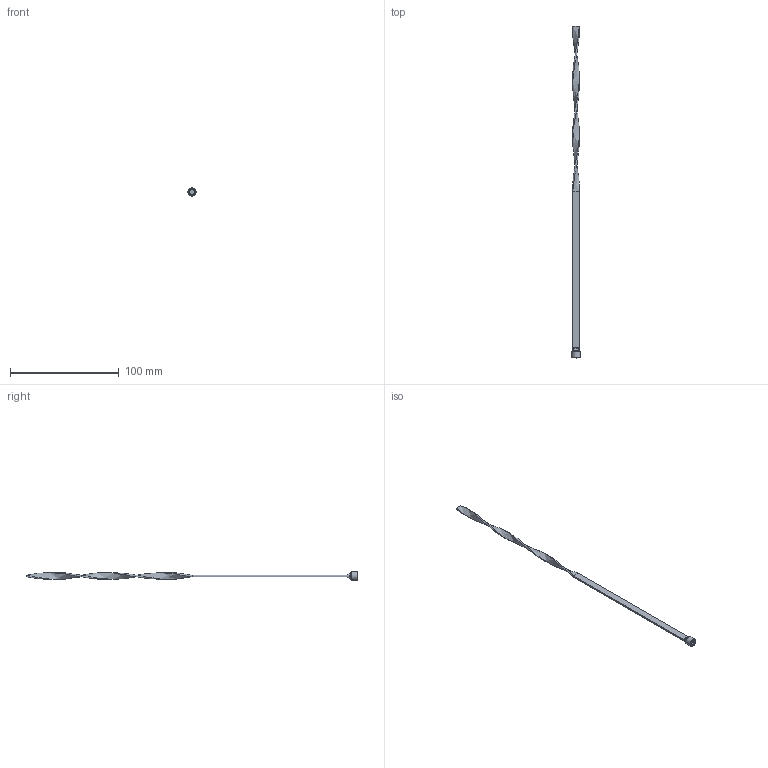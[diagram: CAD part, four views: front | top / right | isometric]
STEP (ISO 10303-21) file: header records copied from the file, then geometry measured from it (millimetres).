
FILE_DESCRIPTION(/* description */ (''),/* implementation_level */ '2;1');
FILE_NAME(/* name */ 'C:/Users/drich/Desktop/TB16X12 v1.step',/* time_stamp */ '2020-01-14T09:03:33-06:00',/* author */ (''),/* organization */ (''),/* preprocessor_version */ 'ST-DEVELOPER v18',/* originating_system */ 'Autodesk Translation Framework v8.12.0.6',/* authorisation */ '');
FILE_SCHEMA (('AUTOMOTIVE_DESIGN { 1 0 10303 214 3 1 1 }'));
Length unit declared in the file: inch
Products named in the file (1): TB16X12
Bounding box: 7.62 x 304.8 x 7.62 mm (x, y, z)
Volume: 2916.8 mm3; surface area: 4815.7 mm2
Topology: 2 solids, 2 shells, 48 faces, 123 edges, 81 vertices
Faces by surface type: plane 22, cylinder 9, cone 8, torus 5, bspline 4
Full cylindrical faces by diameter (mm): 7.616 x1
Entity records: 1920 total; most frequent: CARTESIAN_POINT 741, ORIENTED_EDGE 246, DIRECTION 225, EDGE_CURVE 123, AXIS2_PLACEMENT_3D 83, VERTEX_POINT 81, LINE 59, VECTOR 59
